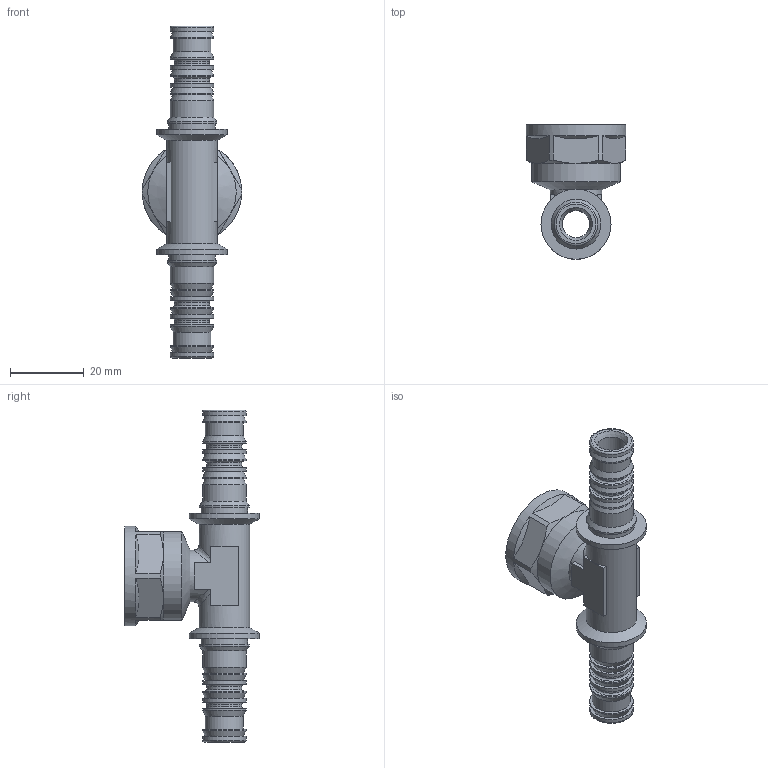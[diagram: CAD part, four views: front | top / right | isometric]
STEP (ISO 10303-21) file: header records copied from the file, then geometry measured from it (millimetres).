
FILE_DESCRIPTION(/* description */ (''),/* implementation_level */ '2;1');
FILE_NAME(/* name */ 'C:\Users\Doom\Desktop\Фадотех\Пресс\HDT11 02.12.2021\HDT11 02.12.2021_1.stp',/* time_stamp */ '2022-08-12T16:48:40+03:00',/* author */ ('Doom'),/* organization */ (''),/* preprocessor_version */ 'ST-DEVELOPER v18',/* originating_system */ 'Autodesk Inventor 2020',/* authorisation */ '');
FILE_SCHEMA (('AUTOMOTIVE_DESIGN { 1 0 10303 214 3 1 1 }'));
Length unit declared in the file: millimetre
Products named in the file (1): HDT11 02.12.2021_1
Bounding box: 27 x 36.5 x 90 mm (x, y, z)
Volume: 11866.8 mm3; surface area: 12764.1 mm2
Topology: 2 solids, 2 shells, 174 faces, 492 edges, 346 vertices
Faces by surface type: plane 76, cylinder 45, cone 31, bspline 12, torus 10
Full cylindrical faces by diameter (mm): 7.5 x1, 9.5 x4, 10.3 x2, 11.8 x16, 12.6 x2, 13.5 x2, 13.7 x1, 14 x1, 18.21 x7, 19 x2, 20.9 x2, 24 x1, 27 x1
Entity records: 10082 total; most frequent: CARTESIAN_POINT 5456, ORIENTED_EDGE 978, DIRECTION 969, EDGE_CURVE 489, AXIS2_PLACEMENT_3D 397, VERTEX_POINT 345, CIRCLE 234, EDGE_LOOP 206
